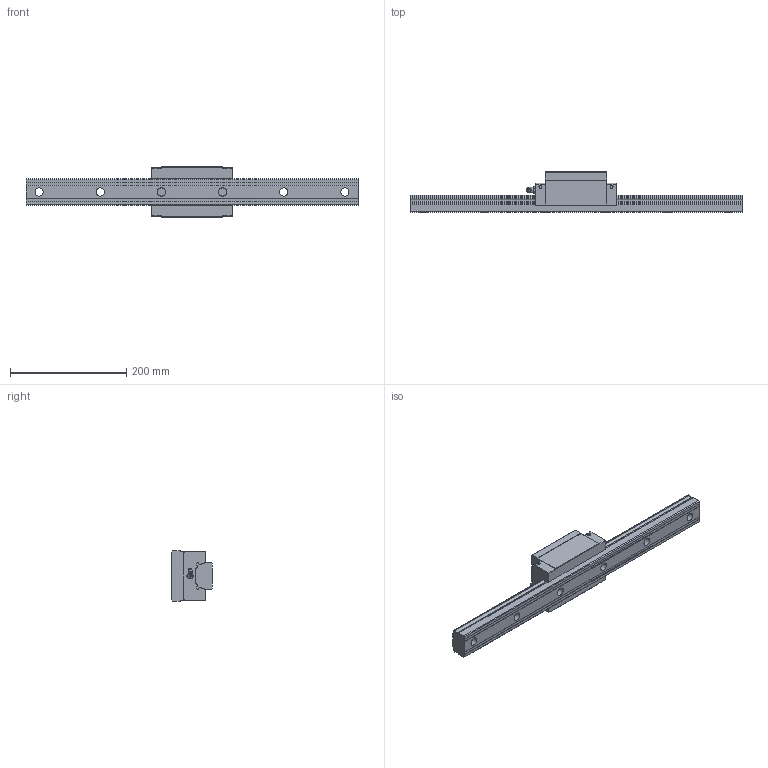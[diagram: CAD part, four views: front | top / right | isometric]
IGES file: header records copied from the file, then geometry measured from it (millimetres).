
Start section: Data from Parasolid IGES Translator 26.0.171, Copyright(c) 2006 Siemens PLM Software. All Rights Reserved.
Global section: file name: SVR45RH1SS-570L_G22-5_0_B-PT18_215-9_0_0_01.igs; native system: By Siemens PLM Incorporated; preprocessor: XPlus GENERIC/IGES 26.0.171; author: Noname; organization: Noname; date: 20240517.072829; units: millimetre
Bounding box: 570 x 70 x 86 mm (x, y, z)
Surface area: 151355.5 mm2 (no closed solid volume)
Topology: 0 solids, 0 shells, 188 faces, 989 edges, 931 vertices
Faces by surface type: extrusion 99, revolution 89
